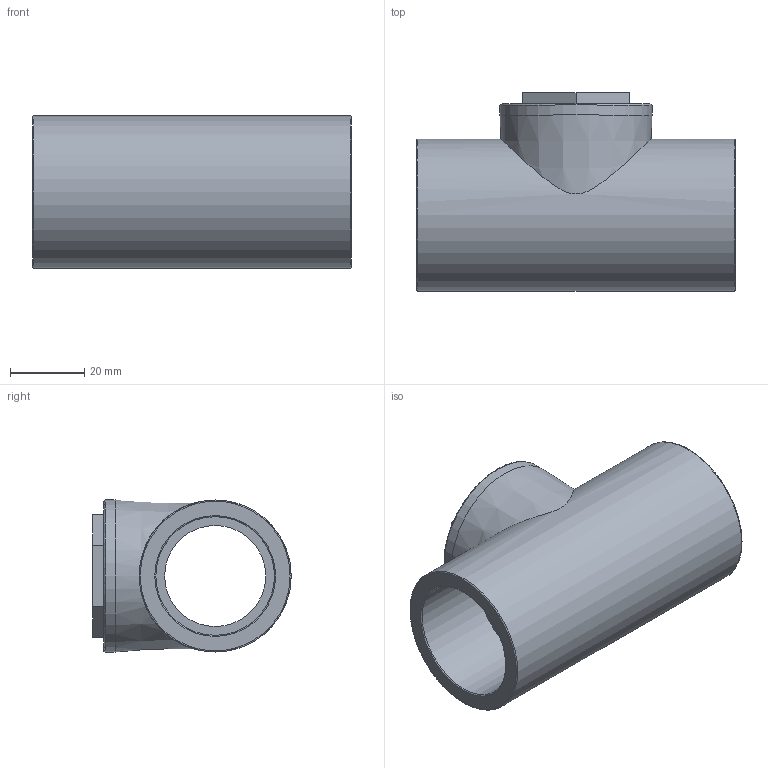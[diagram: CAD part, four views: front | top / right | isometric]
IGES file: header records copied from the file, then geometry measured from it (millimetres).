
Global section: file name: 050408032.ipt; native system: Autodesk Inventor 2015; preprocessor: unknown; author: KIM; date: 20171207.164546; units: millimetre
Bounding box: 86 x 53.5 x 41 mm (x, y, z)
Volume: 71888.2 mm3; surface area: 22623.6 mm2
Topology: 1 solids, 1 shells, 23 faces, 64 edges, 46 vertices
Faces by surface type: plane 12, revolution 8, cylinder 2, cone 1
Full cylindrical faces by diameter (mm): 41 x2
